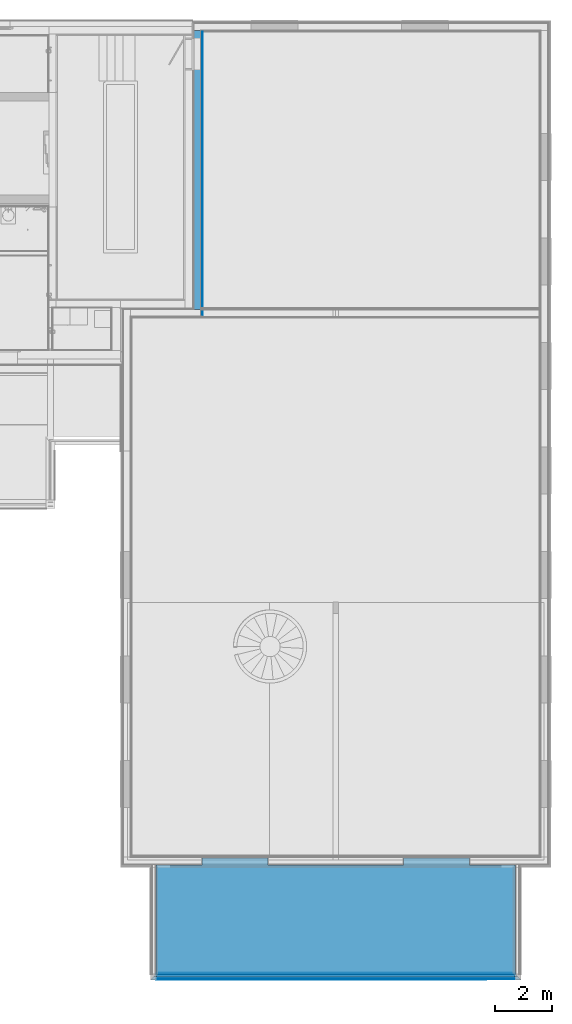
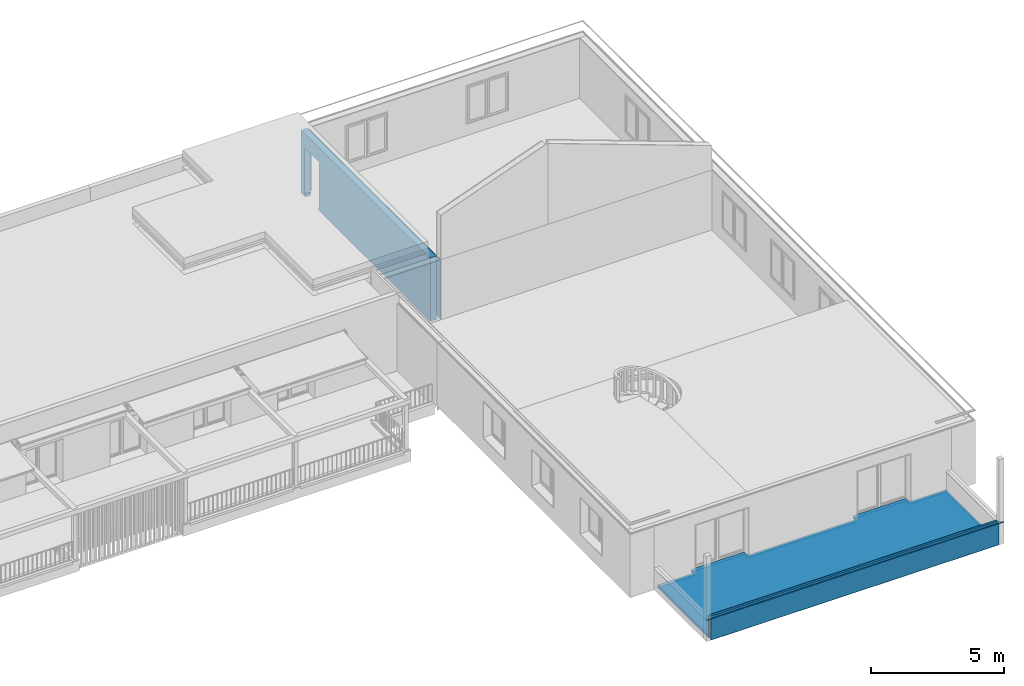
# One storey, part 14 of 36: 14 building element parts, 1 opening, 6 elements without a shape of their own.
"""IFC4 building model written with IfcOpenShell, lengths in millimetres."""

from ifc_helpers import new_model, entity, si_unit, converted_unit, derived_unit, direction, frame, origin_with_axes, place, context, subcontext, project, spatial, polygons, material, type_object, element, aggregate, save


model = new_model("IFC4")

# Units and contexts
model_context = context("Model", 3, precision=0.01, world=origin_with_axes(), true_north=direction((0.0, 1.0)))
body_context = subcontext(model_context, "Body", "Model", "MODEL_VIEW")
ifc_project = project(units=[si_unit("LENGTHUNIT", "METRE", prefix="MILLI"), si_unit("AREAUNIT", "SQUARE_METRE"), si_unit("VOLUMEUNIT", "CUBIC_METRE"), converted_unit("PLANEANGLEUNIT", "DEGREE", entity("IfcPlaneAngleMeasure", 0.0174532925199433), si_unit("PLANEANGLEUNIT", "RADIAN"), dimensions=[0, 0, 0, 0, 0, 0, 0]), converted_unit("TIMEUNIT", "Year", entity("IfcTimeMeasure", 31557600.0), si_unit("TIMEUNIT", "SECOND"), dimensions=[0, 0, 1, 0, 0, 0, 0]), si_unit("MASSUNIT", "GRAM", prefix="KILO"), si_unit("THERMODYNAMICTEMPERATUREUNIT", "DEGREE_CELSIUS"), si_unit("LUMINOUSINTENSITYUNIT", "LUMEN"), si_unit("ENERGYUNIT", "JOULE", prefix="MEGA"), derived_unit("THERMALCONDUCTANCEUNIT", [(si_unit("POWERUNIT", "WATT"), 1), (si_unit("LENGTHUNIT", "METRE"), -1), (si_unit("THERMODYNAMICTEMPERATUREUNIT", "KELVIN"), -1)]), derived_unit("SPECIFICHEATCAPACITYUNIT", [(si_unit("ENERGYUNIT", "JOULE"), 1), (si_unit("MASSUNIT", "GRAM", prefix="KILO"), -1), (si_unit("THERMODYNAMICTEMPERATUREUNIT", "KELVIN"), -1)]), derived_unit("MASSDENSITYUNIT", [(si_unit("MASSUNIT", "GRAM", prefix="KILO"), 1), (si_unit("VOLUMEUNIT", "CUBIC_METRE"), -1)])], contexts=[model_context])

# Site, building, storey
site_placement = place(None, origin_with_axes())
site = spatial("IfcSite", under=ifc_project, at=site_placement, Name="Gelände", CompositionType="ELEMENT")
building_placement = place(site_placement, origin_with_axes())
building = spatial("IfcBuilding", under=site, at=building_placement, Name="Gebäude", CompositionType="ELEMENT")
storey_placement = place(building_placement, frame((0.0, 0.0, 8700.0), z_axis=(0.0, 0.0, 1.0), x_axis=(1.0, 0.0, 0.0)))
storey = spatial("IfcBuildingStorey", under=building, at=storey_placement, Name="Attika", CompositionType="ELEMENT", Elevation=8700.0)

# Curtain wall, building element parts
curtain_wall_type_1 = type_object("IfcCurtainWallType", Name="Fassade Typ 03 - Horizontale Schalung 46", PredefinedType="NOTDEFINED")
curtain_wall_1_placement = place(storey_placement, frame((31682.9974188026, 4518.597281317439, 499.9998959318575), z_axis=(0.0, 0.0, 1.0), x_axis=(-1.0, 0.0, 0.0)))
curtain_wall_1 = element("IfcCurtainWall", 1, at=curtain_wall_1_placement, inside=storey, type_object=curtain_wall_type_1, Name="Wand-017", PredefinedType="NOTDEFINED")
ifc_material_1 = material(Name="Falzschalung horizontal")
building_element_part_1_placement = place(curtain_wall_1_placement, origin_with_axes())
building_element_part_1 = element("IfcBuildingElementPart", 2, at=building_element_part_1_placement, material=ifc_material_1, Name="Falzschalung horizontal", PredefinedType="NOTDEFINED", context=body_context, shape_type="Tessellation", body=[
    polygons([(0.0, 0.0, 1000.0), (0.0, -20.99999999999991, 1000.0), (12507.99994874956, -21.00000000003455, 1000.0), (12507.99994874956, 0.0, 1000.0), (0.0, 0.0, 0.0), (0.0, -20.99999999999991, 0.0), (12507.99994874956, -21.00000000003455, 0.0), (12507.99994874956, 0.0, 0.0)], [[[1, 2, 3, 4]], [[5, 6, 2, 1]], [[2, 6, 7, 3]], [[8, 4, 3, 7]], [[5, 1, 4, 8]], [[6, 5, 8, 7]]], closed=True),
])
ifc_material_2 = material(Name="Lattenrost vertikal")
building_element_part_2_placement = place(curtain_wall_1_placement, origin_with_axes())
building_element_part_2 = element("IfcBuildingElementPart", 3, at=building_element_part_2_placement, material=ifc_material_2, Name="Lattenrost vertikal", PredefinedType="NOTDEFINED", context=body_context, shape_type="Tessellation", body=[
    polygons([(0.0, -20.99999999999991, 1000.0), (0.0, -46.00000000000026, 1000.0), (12507.99994874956, -46.00000000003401, 1000.0), (12507.99994874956, -21.00000000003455, 1000.0), (0.0, -20.99999999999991, 0.0), (0.0, -46.00000000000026, 0.0), (12507.99994874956, -46.0000000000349, 0.0), (12507.99994874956, -21.00000000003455, 0.0)], [[[1, 2, 3, 4]], [[5, 6, 2, 1]], [[2, 6, 7, 3]], [[8, 4, 3, 7]], [[5, 1, 4, 8]], [[6, 5, 8, 7]]], closed=True),
])
aggregate(curtain_wall_1, [building_element_part_1, building_element_part_2])

# Curtain wall, building element part
curtain_wall_2_placement = place(storey_placement, frame((19216.99749132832, 4760.597281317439, 619.9998959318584), z_axis=(0.0, 0.0, 1.0), x_axis=(1.0, 0.0, 0.0)))
curtain_wall_2 = element("IfcCurtainWall", 4, at=curtain_wall_2_placement, inside=storey, type_object=curtain_wall_type_1, Name="Wand-017", PredefinedType="NOTDEFINED")
building_element_part_3_placement = place(curtain_wall_2_placement, origin_with_axes())
building_element_part_3 = element("IfcBuildingElementPart", 5, at=building_element_part_3_placement, material=ifc_material_1, Name="Falzschalung horizontal", PredefinedType="NOTDEFINED", context=body_context, shape_type="Tessellation", body=[
    polygons([(12444.99990619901, -20.99999999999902, 879.999999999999), (12444.99990619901, -20.99999999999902, 0.09999999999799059), (12444.99990619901, 0.0, 0.09999999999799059), (12444.99990619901, 0.0, 879.999999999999), (0.0, -20.99999999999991, 879.999999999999), (0.0, -20.99999999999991, 0.09999999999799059), (0.0, 0.0, 0.09999999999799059), (0.0, 0.0, 879.999999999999)], [[[1, 2, 3, 4]], [[5, 6, 2, 1]], [[6, 7, 3, 2]], [[4, 3, 7, 8]], [[5, 1, 4, 8]], [[8, 7, 6, 5]]], closed=True),
])

# Covering, building element part
covering_type = type_object("IfcCoveringType", Name="Dacheindeckung Typ 01 120", PredefinedType="NOTDEFINED")
covering_placement = place(storey_placement, frame((31686.99739752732, 8518.597281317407, 499.9998959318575), z_axis=(0.0, 0.0, 1.0), x_axis=(1.0, 0.0, 0.0)))
covering = element("IfcCovering", 6, at=covering_placement, inside=storey, type_object=covering_type, Name="Deckennr.-073", PredefinedType="NOTDEFINED")
ifc_material_3 = material(Name="Bodenbelag")
building_element_part_4_placement = place(covering_placement, origin_with_axes())
building_element_part_4 = element("IfcBuildingElementPart", 7, at=building_element_part_4_placement, material=ifc_material_3, Name="Bodenbelag", PredefinedType="NOTDEFINED", context=body_context, shape_type="Tessellation", body=[
    polygons([(-12511.99992747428, -3799.999999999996, 120.000000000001), (-12511.99992747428, -3803.999999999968, 120.000000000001), (-12490.99990619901, -3803.999999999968, 120.000000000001), (-3.999978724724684, -3803.999999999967, 120.000000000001), (-3.999978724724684, -3799.999999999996, 120.000000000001), (0.0, -3799.999999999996, 120.000000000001), (0.0, -3778.999999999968, 120.000000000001), (0.0, -92.05022231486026, 120.000000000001), (-24.99999999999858, -92.05022231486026, 120.000000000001), (-24.99999999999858, -3778.999999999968, 120.000000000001), (-12490.99990619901, -3778.999999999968, 120.000000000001), (-12490.99990619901, -92.05022231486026, 120.000000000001), (-12515.99990619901, -92.05022231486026, 120.000000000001), (-12515.99990619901, -3799.999999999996, 120.000000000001), (-12511.99992747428, -3799.999999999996, 100.0999999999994), (-12511.99992747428, -3803.999999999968, 100.0999999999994), (-3.999978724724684, -3803.999999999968, 100.0999999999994), (-3.999978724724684, -3799.999999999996, 100.0999999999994), (0.0, -3799.999999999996, 100.0999999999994), (0.0, 0.0, 100.0999999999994), (0.0, 0.0, 120.0001040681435), (-4.006480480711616e-06, -49.99999999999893, 120.0001040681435), (-4.006334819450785e-06, -49.99999999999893, 120.099999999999), (0.0, -92.05022231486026, 120.099999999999), (-24.99999999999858, -92.05022231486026, 120.099999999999), (-24.99999999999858, -3778.999999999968, 120.099999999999), (-12490.99990619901, -3778.999999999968, 120.099999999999), (-12490.99990619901, -92.05022231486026, 120.099999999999), (-12515.99990619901, -92.05022231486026, 120.099999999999), (-12515.99990619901, -3799.999999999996, 100.0999999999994), (-12515.99990219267, -49.99999999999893, 120.099999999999), (-12515.99990219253, -49.99999999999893, 120.0001040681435), (-12515.99990619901, 0.0, 120.0001040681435), (-12515.99990619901, 0.0, 100.0999999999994), (-10916.33328608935, 0.0, 100.0999999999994), (-10916.33328608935, 250.0, 100.0999999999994), (-8626.333286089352, 250.0, 100.0999999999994), (-8626.333286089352, 0.0, 100.0999999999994), (-3889.666620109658, 0.0, 100.0999999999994), (-3889.666620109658, 250.0, 100.0999999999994), (-1599.666620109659, 250.0, 100.0999999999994), (-1599.666620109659, 0.0, 100.0999999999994), (-1599.666620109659, 0.0, 120.099999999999), (-1578.666620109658, 0.0, 120.099999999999), (-1578.666620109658, 0.0, 120.0001040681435), (-1578.666620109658, -49.99999999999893, 120.0001040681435), (-1578.666620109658, -49.99999999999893, 120.099999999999), (-1599.666620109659, 250.0, 120.099999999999), (-3889.666620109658, 250.0, 120.099999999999), (-3889.666620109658, 0.0, 120.099999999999), (-3910.666620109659, 0.0, 120.099999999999), (-3910.666620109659, -49.99999999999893, 120.099999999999), (-8605.333286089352, -49.99999999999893, 120.099999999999), (-8605.333286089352, 0.0, 120.099999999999), (-8626.333286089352, 0.0, 120.099999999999), (-8626.333286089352, 250.0, 120.099999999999), (-10916.33328608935, 250.0, 120.099999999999), (-10916.33328608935, 0.0, 120.099999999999), (-10937.33328608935, 0.0, 120.099999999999), (-10937.33328608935, -49.99999999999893, 120.099999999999), (-10937.33328608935, -49.99999999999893, 120.0001040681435), (-10937.33328608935, 0.0, 120.0001040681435), (-8605.333286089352, 0.0, 120.0001040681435), (-3910.666620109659, 0.0, 120.0001040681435), (-3910.666620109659, -49.99999999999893, 120.0001040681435), (-8605.333286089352, -49.99999999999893, 120.0001040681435)], [[[1, 2, 3, 4, 5, 6, 7, 8, 9, 10, 11, 12, 13, 14]], [[2, 1, 15, 16]], [[2, 16, 17, 4, 3]], [[5, 4, 17, 18]], [[19, 6, 5, 18]], [[6, 19, 20, 21, 22, 23, 24, 8, 7]], [[9, 8, 24, 25]], [[9, 25, 26, 10]], [[11, 10, 26, 27]], [[12, 11, 27, 28]], [[12, 28, 29, 13]], [[30, 14, 13, 29, 31, 32, 33, 34]], [[1, 14, 30, 15]], [[15, 30, 34, 35, 36, 37, 38, 39, 40, 41, 42, 20, 19, 18, 17, 16]], [[43, 44, 45, 21, 20, 42]], [[21, 45, 46, 22]], [[46, 47, 23, 22]], [[27, 26, 25, 24, 23, 47, 44, 43, 48, 49, 50, 51, 52, 53, 54, 55, 56, 57, 58, 59, 60, 31, 29, 28]], [[32, 31, 60, 61]], [[33, 32, 61, 62]], [[34, 33, 62, 59, 58, 35]], [[57, 36, 35, 58]], [[56, 37, 36, 57]], [[55, 38, 37, 56]], [[54, 63, 64, 51, 50, 39, 38, 55]], [[49, 40, 39, 50]], [[48, 41, 40, 49]], [[43, 42, 41, 48]], [[44, 47, 46, 45]], [[51, 64, 65, 52]], [[66, 53, 52, 65]], [[54, 53, 66, 63]], [[59, 62, 61, 60]], [[63, 66, 65, 64]]], closed=True),
])

# Building element part
building_element_part_5_placement = place(curtain_wall_2_placement, origin_with_axes())
building_element_part_5 = element("IfcBuildingElementPart", 8, at=building_element_part_5_placement, material=ifc_material_2, Name="Lattenrost vertikal", PredefinedType="NOTDEFINED", context=body_context, shape_type="Tessellation", body=[
    polygons([(12465.99992747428, -45.99999999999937, 879.999999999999), (12465.99992747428, -42.00000000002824, 879.999999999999), (12469.99990619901, -42.00000000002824, 879.999999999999), (12469.99990619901, -20.99999999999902, 879.999999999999), (-21.0000000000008, -20.99999999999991, 879.999999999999), (-21.0000000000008, -46.00000000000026, 879.999999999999), (12465.99992747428, -45.99999999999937, 0.0), (12465.99992747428, -42.00000000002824, 0.0), (12469.99990619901, -42.00000000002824, 0.0), (12469.99990619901, -20.99999999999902, 0.0), (-21.0000000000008, -20.99999999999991, 0.0), (-21.0000000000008, -46.00000000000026, 0.0)], [[[1, 2, 3, 4, 5, 6]], [[2, 1, 7, 8]], [[9, 3, 2, 8]], [[3, 9, 10, 4]], [[5, 4, 10, 11]], [[11, 12, 6, 5]], [[7, 1, 6, 12]], [[8, 7, 12, 11, 10, 9]]], closed=True),
])

aggregate(curtain_wall_2, [building_element_part_3, building_element_part_5])

ifc_material_4 = material(Name="Sperrschicht")
building_element_part_6_placement = place(covering_placement, origin_with_axes())
building_element_part_6 = element("IfcBuildingElementPart", 9, at=building_element_part_6_placement, material=ifc_material_4, Name="Sperrschicht", PredefinedType="NOTDEFINED", context=body_context, shape_type="Tessellation", body=[
    polygons([(-12511.99992747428, -3799.999999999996, 0.09999999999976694), (-12511.99992747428, -3803.999999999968, 0.09999999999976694), (-3.999978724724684, -3803.999999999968, 0.09999999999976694), (-3.999978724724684, -3799.999999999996, 0.09999999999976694), (0.0, -3799.999999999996, 0.09999999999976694), (0.0, 0.0, 0.09999999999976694), (-1599.666620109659, 0.0, 0.09999999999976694), (-1599.666620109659, 250.0, 0.09999999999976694), (-3889.666620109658, 250.0, 0.09999999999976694), (-3889.666620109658, 0.0, 0.09999999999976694), (-8626.333286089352, 0.0, 0.09999999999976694), (-8626.333286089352, 250.0, 0.09999999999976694), (-10916.33328608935, 250.0, 0.09999999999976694), (-10916.33328608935, 0.0, 0.09999999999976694), (-12515.99990619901, 0.0, 0.09999999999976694), (-12515.99990619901, -3799.999999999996, 0.09999999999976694), (-12511.99992747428, -3799.999999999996, 9.123723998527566e-08), (-12511.99992747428, -3803.999999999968, 9.123723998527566e-08), (-3.999978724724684, -3803.999999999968, 9.123723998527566e-08), (-3.999978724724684, -3799.999999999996, 9.123723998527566e-08), (0.0, -3799.999999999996, 9.123723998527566e-08), (0.0, 0.0, 0.0), (-1599.666620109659, 0.0, 0.0), (-1599.666620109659, 250.0, 0.0), (-3889.666620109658, 250.0, 0.0), (-3889.666620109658, 0.0, 0.0), (-8626.333286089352, 0.0, 0.0), (-8626.333286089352, 250.0, 0.0), (-10916.33328608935, 250.0, 0.0), (-10916.33328608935, 0.0, 0.0), (-12515.99990619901, 0.0, 0.0), (-12515.99990619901, -3799.999999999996, 9.123723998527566e-08)], [[[1, 2, 3, 4, 5, 6, 7, 8, 9, 10, 11, 12, 13, 14, 15, 16]], [[2, 1, 17, 18]], [[2, 18, 19, 3]], [[4, 3, 19, 20]], [[21, 5, 4, 20]], [[5, 21, 22, 6]], [[7, 6, 22, 23]], [[8, 7, 23, 24]], [[9, 8, 24, 25]], [[10, 9, 25, 26]], [[11, 10, 26, 27]], [[12, 11, 27, 28]], [[13, 12, 28, 29]], [[14, 13, 29, 30]], [[15, 14, 30, 31]], [[32, 16, 15, 31]], [[1, 16, 32, 17]], [[17, 32, 31, 30, 29, 28, 27, 26, 25, 24, 23, 22, 21, 20, 19, 18]]], closed=True),
])

ifc_material_5 = material(Name="Dämmung Aussen")
building_element_part_7_placement = place(covering_placement, origin_with_axes())
building_element_part_7 = element("IfcBuildingElementPart", 10, at=building_element_part_7_placement, material=ifc_material_5, Name="Dämmung Aussen", PredefinedType="NOTDEFINED", context=body_context, shape_type="Tessellation", body=[
    polygons([(-12511.99992747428, -3799.999999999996, 100.0999999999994), (-12511.99992747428, -3803.999999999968, 100.0999999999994), (-3.999978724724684, -3803.999999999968, 100.0999999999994), (-3.999978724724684, -3799.999999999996, 100.0999999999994), (0.0, -3799.999999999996, 100.0999999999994), (0.0, 0.0, 100.0999999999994), (-1599.666620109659, 0.0, 100.0999999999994), (-1599.666620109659, 250.0, 100.0999999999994), (-3889.666620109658, 250.0, 100.0999999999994), (-3889.666620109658, 0.0, 100.0999999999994), (-8626.333286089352, 0.0, 100.0999999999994), (-8626.333286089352, 250.0, 100.0999999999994), (-10916.33328608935, 250.0, 100.0999999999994), (-10916.33328608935, 0.0, 100.0999999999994), (-12515.99990619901, 0.0, 100.0999999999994), (-12515.99990619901, -3799.999999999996, 100.0999999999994), (-12511.99992747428, -3799.999999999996, 0.09999999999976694), (-12511.99992747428, -3803.999999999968, 0.09999999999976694), (-3.999978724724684, -3803.999999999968, 0.09999999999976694), (-3.999978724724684, -3799.999999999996, 0.09999999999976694), (0.0, -3799.999999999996, 0.09999999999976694), (0.0, 0.0, 0.09999999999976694), (-1599.666620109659, 0.0, 0.09999999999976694), (-1599.666620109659, 250.0, 0.09999999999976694), (-3889.666620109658, 250.0, 0.09999999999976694), (-3889.666620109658, 0.0, 0.09999999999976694), (-8626.333286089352, 0.0, 0.09999999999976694), (-8626.333286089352, 250.0, 0.09999999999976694), (-10916.33328608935, 250.0, 0.09999999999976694), (-10916.33328608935, 0.0, 0.09999999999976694), (-12515.99990619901, 0.0, 0.09999999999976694), (-12515.99990619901, -3799.999999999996, 0.09999999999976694)], [[[1, 2, 3, 4, 5, 6, 7, 8, 9, 10, 11, 12, 13, 14, 15, 16]], [[2, 1, 17, 18]], [[2, 18, 19, 3]], [[4, 3, 19, 20]], [[21, 5, 4, 20]], [[5, 21, 22, 6]], [[6, 22, 23, 7]], [[7, 23, 24, 8]], [[8, 24, 25, 9]], [[9, 25, 26, 10]], [[10, 26, 27, 11]], [[11, 27, 28, 12]], [[12, 28, 29, 13]], [[13, 29, 30, 14]], [[14, 30, 31, 15]], [[32, 16, 15, 31]], [[1, 16, 32, 17]], [[17, 32, 31, 30, 29, 28, 27, 26, 25, 24, 23, 22, 21, 20, 19, 18]]], closed=True),
])

aggregate(covering, [building_element_part_4, building_element_part_6, building_element_part_7])

# Wall, opening, building element parts
wall_type_1 = type_object("IfcWallType", Name="Aussenwand Typ 01 318", PredefinedType="NOTDEFINED")
wall_1_placement = place(storey_placement, frame((20468.99744477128, 27907.59728131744, 500.0), z_axis=(0.0, 0.0, 1.0), x_axis=(0.0, 1.0, 0.0)))
wall_1 = element("IfcWall", 11, at=wall_1_placement, inside=storey, type_object=wall_type_1, Name="Wand-014", PredefinedType="NOTDEFINED")
opening_placement = place(wall_1_placement, frame((8879.999999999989, 0.0, 119.9999999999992), z_axis=(0.0, 0.0, 1.0), x_axis=(1.0, 0.0, 0.0)))
element("IfcOpeningElement", 12, at=opening_placement, cuts=wall_1, Name="Türzarge Typ 01", context=body_context, identifier="Reference", shape_type="Tessellation", body=[
    polygons([(-549.9999999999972, -319.0000000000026, 2100.0), (-549.9999999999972, -319.0000000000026, 0.0), (549.9999999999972, -319.0000000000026, 0.0), (549.9999999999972, -319.0000000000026, 2100.0), (-549.9999999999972, 1.000000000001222, 2100.0), (-549.9999999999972, 1.000000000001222, 0.0), (549.9999999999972, 1.000000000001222, 0.0), (549.9999999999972, 1.000000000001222, 2100.0)], [[[1, 2, 3, 4]], [[5, 6, 2, 1]], [[6, 7, 3, 2]], [[7, 8, 4, 3]], [[8, 5, 1, 4]], [[7, 6, 5, 8]]], closed=True),
])
ifc_material_6 = material(Name="Ständer Konstruktion gedämmt")
building_element_part_8_placement = place(wall_1_placement, origin_with_axes())
building_element_part_8 = element("IfcBuildingElementPart", 13, at=building_element_part_8_placement, material=ifc_material_6, Name="Ständer Konstruktion gedämmt", PredefinedType="NOTDEFINED", context=body_context, shape_type="Tessellation", body=[
    polygons([(8329.99999999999, -277.9999999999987, 119.9999999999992), (8329.99999999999, -277.9999999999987, 2219.999999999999), (9429.999999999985, -277.9999999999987, 2219.999999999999), (9429.999999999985, -277.9999999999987, 119.9999999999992), (9384.999999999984, -277.9999999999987, 119.9999999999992), (9384.999999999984, -277.9999999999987, 0.0), (9690.999999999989, -277.9999999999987, 0.0), (9690.999999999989, -277.9999999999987, 2900.0), (-18.00000000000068, -277.9999999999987, 2900.0), (-18.00000000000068, -277.9999999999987, 0.0), (8374.999999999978, -277.9999999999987, 0.0), (8374.999999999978, -277.9999999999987, 119.9999999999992), (8329.99999999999, -18.00000000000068, 119.9999999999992), (8329.99999999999, -18.00000000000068, 2219.999999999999), (9429.999999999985, -18.00000000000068, 2219.999999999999), (9429.999999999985, -18.00000000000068, 119.9999999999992), (9384.999999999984, -18.00000000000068, 119.9999999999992), (9384.999999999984, -18.00000000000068, 0.0), (9690.999999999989, -18.00000000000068, 0.0), (9690.999999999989, -18.00000000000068, 2900.0), (-18.00000000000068, -18.00000000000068, 2900.0), (-18.00000000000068, -18.00000000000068, 0.0), (8374.999999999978, -18.00000000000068, 0.0), (8374.999999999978, -18.00000000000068, 119.9999999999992)], [[[1, 2, 3, 4, 5, 6, 7, 8, 9, 10, 11, 12]], [[2, 1, 13, 14]], [[3, 2, 14, 15]], [[4, 3, 15, 16]], [[5, 4, 16, 17]], [[5, 17, 18, 6]], [[18, 19, 7, 6]], [[8, 7, 19, 20]], [[20, 21, 9, 8]], [[9, 21, 22, 10]], [[11, 10, 22, 23]], [[24, 12, 11, 23]], [[1, 12, 24, 13]], [[13, 24, 23, 22, 21, 20, 19, 18, 17, 16, 15, 14]]], closed=True),
])
ifc_material_7 = material(Name="Verputz Innen")
building_element_part_9_placement = place(wall_1_placement, origin_with_axes())
building_element_part_9 = element("IfcBuildingElementPart", 14, at=building_element_part_9_placement, material=ifc_material_7, Name="Verputz Innen", PredefinedType="NOTDEFINED", context=body_context, shape_type="Tessellation", body=[
    polygons([(8329.99999999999, -318.0000000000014, 150.0000000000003), (8329.99999999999, -318.0000000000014, 2219.999999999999), (9429.999999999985, -318.0000000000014, 2219.999999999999), (9429.999999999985, -318.0000000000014, 150.0000000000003), (9650.999999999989, -318.0000000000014, 150.0000000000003), (9650.999999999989, -318.0000000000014, 2900.0), (-307.9999999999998, -318.0000000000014, 2900.0), (-307.9999999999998, -318.0000000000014, 150.0000000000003), (8329.99999999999, -307.9999999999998, 150.0000000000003), (8329.99999999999, -307.999999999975, 2219.999999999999), (9429.999999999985, -307.999999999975, 2219.999999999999), (9429.999999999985, -307.9999999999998, 150.0000000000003), (9650.999999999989, -307.9999999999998, 150.0000000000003), (9650.999999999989, -307.9999999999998, 2900.0), (-307.9999999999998, -307.9999999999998, 2900.0), (-307.9999999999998, -307.9999999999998, 150.0000000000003), (39.99999999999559, -307.999999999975, 150.0000000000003)], [[[1, 2, 3, 4, 5, 6, 7, 8]], [[2, 1, 9, 10]], [[3, 2, 10, 11]], [[4, 3, 11, 12]], [[4, 12, 13, 5]], [[13, 14, 6, 5]], [[14, 15, 7, 6]], [[8, 7, 15, 16]], [[9, 1, 8, 16, 17]], [[10, 9, 17, 16, 15, 14, 13, 12, 11]]], closed=True),
])
aggregate(wall_1, [building_element_part_8, building_element_part_9])

# Curtain wall, building element parts
curtain_wall_type_2 = type_object("IfcCurtainWallType", Name="Brüstungsabdeckung 01 250 x 33", PredefinedType="NOTDEFINED")
curtain_wall_3_placement = place(storey_placement, frame((31761.9974188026, 4639.597281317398, 1499.999895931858), z_axis=(0.0, 0.0, 1.0), x_axis=(0.0, 1.0, 0.0)))
curtain_wall_3 = element("IfcCurtainWall", 15, at=curtain_wall_3_placement, inside=storey, type_object=curtain_wall_type_2, Name="Unterzug-027", PredefinedType="NOTDEFINED")
ifc_material_8 = material(Name="Stahl")
building_element_part_10_placement = place(curtain_wall_3_placement, origin_with_axes())
building_element_part_10 = element("IfcBuildingElementPart", 16, at=building_element_part_10_placement, material=ifc_material_8, Name="Stahl", PredefinedType="NOTDEFINED", context=body_context, shape_type="Tessellation", body=[
    polygons([(0.0, 12665.99994874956, 2.526754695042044), (0.0, 12665.99994874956, -1.205181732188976e-06), (0.0, 0.0, -1.205181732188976e-06), (0.0, 0.0, 2.526754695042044), (125.0000415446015, 12540.99990720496, 2.526754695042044), (125.0000005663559, 12540.99994818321, -29.99999999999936), (122.299955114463, 12543.6999936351, -29.99999999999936), (122.299955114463, 12543.6999936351, -1.205181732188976e-06), (122.2999551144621, 122.2999551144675, -1.205181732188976e-06), (122.2999551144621, 122.2999551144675, -29.99999999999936), (125.000000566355, 125.000000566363, -29.99999999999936), (125.0000415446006, 125.000041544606, 2.526754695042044)], [[[1, 2, 3, 4]], [[1, 5, 6, 7, 8, 2]], [[2, 8, 9, 3]], [[4, 3, 9, 10, 11, 12]], [[5, 1, 4, 12]], [[6, 5, 12, 11]], [[7, 6, 11, 10]], [[8, 7, 10, 9]]], closed=True),
])
building_element_part_11_placement = place(curtain_wall_3_placement, origin_with_axes())
building_element_part_11 = element("IfcBuildingElementPart", 17, at=building_element_part_11_placement, material=ifc_material_8, Name="Stahl", PredefinedType="NOTDEFINED", context=body_context, shape_type="Tessellation", body=[
    polygons([(-125.0000415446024, 12790.99999029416, 2.526755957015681), (-125.0000000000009, 12790.99994874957, -29.99999999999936), (-125.0, -124.9999999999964, -29.99999999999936), (-125.0000415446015, -125.0000415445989, 2.526755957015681), (0.0, 12665.99994874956, 2.526755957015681), (0.0, 12665.99994874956, 0.0), (-122.2999537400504, 12788.29990248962, 0.0), (-122.2999537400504, 12788.29990248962, -29.99999999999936), (-122.2999537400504, -122.2999537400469, -29.99999999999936), (-122.2999537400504, -122.2999537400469, 0.0), (0.0, 0.0, 0.0), (0.0, 0.0, 2.526755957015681)], [[[1, 2, 3, 4]], [[1, 5, 6, 7, 8, 2]], [[2, 8, 9, 3]], [[4, 3, 9, 10, 11, 12]], [[5, 1, 4, 12]], [[6, 5, 12, 11]], [[7, 6, 11, 10]], [[8, 7, 10, 9]]], closed=True),
])
aggregate(curtain_wall_3, [building_element_part_10, building_element_part_11])

# Wall, building element parts
wall_type_2 = type_object("IfcWallType", Name="Aussenwand Typ 02 150", PredefinedType="NOTDEFINED")
wall_2_placement = place(storey_placement, frame((19174.99747005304, 4564.597281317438, 499.9998959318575), z_axis=(0.0, 0.0, 1.0), x_axis=(1.0, 0.0, 0.0)))
wall_2 = element("IfcWall", 18, at=wall_2_placement, inside=storey, type_object=wall_type_2, Name="Wand-017", PredefinedType="NOTDEFINED")
ifc_material_9 = material(Name="Grobspanplatte-OSB")
building_element_part_12_placement = place(wall_2_placement, origin_with_axes())
building_element_part_12 = element("IfcBuildingElementPart", 19, at=building_element_part_12_placement, material=ifc_material_9, Name="Grobspanplatte-OSB", PredefinedType="NOTDEFINED", context=body_context, shape_type="Tessellation", body=[
    polygons([(0.0, 150.0000000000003, 0.0), (12507.99994874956, 150.0000000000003, 0.0), (12507.99994874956, 135.0000000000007, 0.0), (0.0, 134.9999999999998, 0.0), (0.0, 150.0000000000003, 1000.0), (12507.99994874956, 150.0000000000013, 1000.0), (12507.99994874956, 135.0000000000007, 1000.0), (0.0, 134.9999999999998, 1000.0)], [[[1, 2, 3, 4]], [[5, 6, 2, 1]], [[3, 2, 6, 7]], [[4, 3, 7, 8]], [[5, 1, 4, 8]], [[8, 7, 6, 5]]], closed=True),
])
building_element_part_13_placement = place(wall_2_placement, origin_with_axes())
building_element_part_13 = element("IfcBuildingElementPart", 20, at=building_element_part_13_placement, material=ifc_material_9, Name="Grobspanplatte-OSB", PredefinedType="NOTDEFINED", context=body_context, shape_type="Tessellation", body=[
    polygons([(0.0, 14.99999999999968, 0.0), (12507.99994874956, 15.00000000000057, 0.0), (12507.99994874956, 0.0, 0.0), (0.0, 0.0, 0.0), (0.0, 14.99999999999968, 1000.0), (12507.99994874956, 15.00000000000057, 1000.0), (12507.99994874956, 0.0, 1000.0), (0.0, 0.0, 1000.0)], [[[1, 2, 3, 4]], [[5, 6, 2, 1]], [[3, 2, 6, 7]], [[4, 3, 7, 8]], [[5, 1, 4, 8]], [[8, 7, 6, 5]]], closed=True),
])
building_element_part_14_placement = place(wall_2_placement, origin_with_axes())
building_element_part_14 = element("IfcBuildingElementPart", 21, at=building_element_part_14_placement, material=ifc_material_6, Name="Ständer Konstruktion gedämmt", PredefinedType="NOTDEFINED", context=body_context, shape_type="Tessellation", body=[
    polygons([(0.0, 134.9999999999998, 0.0), (12507.99994874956, 135.0000000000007, 0.0), (12507.99994874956, 15.00000000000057, 0.0), (0.0, 14.99999999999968, 0.0), (0.0, 134.9999999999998, 1000.0), (12507.99994874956, 135.0000000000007, 1000.0), (12507.99994874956, 15.00000000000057, 1000.0), (0.0, 14.99999999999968, 1000.0)], [[[1, 2, 3, 4]], [[5, 6, 2, 1]], [[3, 2, 6, 7]], [[4, 3, 7, 8]], [[5, 1, 4, 8]], [[8, 7, 6, 5]]], closed=True),
])
aggregate(wall_2, [building_element_part_12, building_element_part_13, building_element_part_14])

save(model, "model.ifc")
